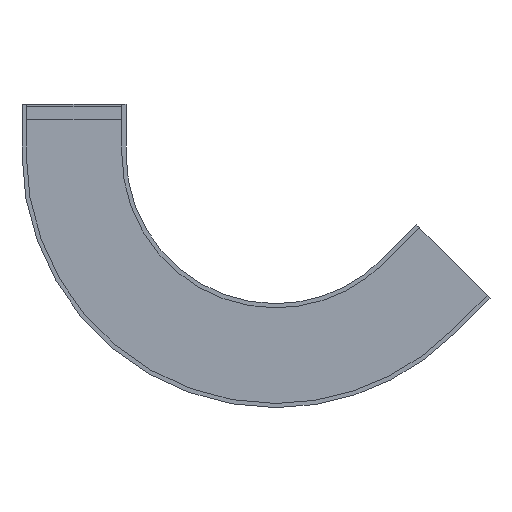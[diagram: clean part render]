
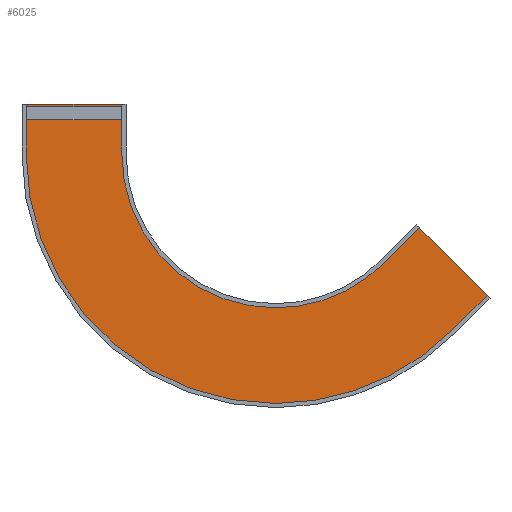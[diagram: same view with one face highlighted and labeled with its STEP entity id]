
A CAD part, front view. The second image highlights one B-rep face of the part: STEP entity #6025.
In plain terms, the highlighted planar face has unit normal (0, -1, 0).
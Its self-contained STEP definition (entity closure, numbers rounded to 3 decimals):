
#59 = VERTEX_POINT ( 'NONE', #1007 ) ;
#113 = VERTEX_POINT ( 'NONE', #931 ) ;
#165 = VERTEX_POINT ( 'NONE', #7362 ) ;
#169 = VERTEX_POINT ( 'NONE', #7344 ) ;
#190 = VERTEX_POINT ( 'NONE', #7257 ) ;
#332 = VERTEX_POINT ( 'NONE', #7296 ) ;
#378 = VERTEX_POINT ( 'NONE', #6730 ) ;
#385 = VERTEX_POINT ( 'NONE', #6700 ) ;
#741 = VECTOR ( 'NONE', #2535, 1000. ) ;
#742 = LINE ( 'NONE', #2536, #741 ) ;
#743 = VECTOR ( 'NONE', #2537, 1000. ) ;
#744 = LINE ( 'NONE', #2538, #743 ) ;
#745 = VECTOR ( 'NONE', #2539, 1000. ) ;
#746 = LINE ( 'NONE', #2540, #745 ) ;
#747 = VECTOR ( 'NONE', #2541, 1000. ) ;
#748 = LINE ( 'NONE', #2542, #747 ) ;
#931 = CARTESIAN_POINT ( 'NONE',  ( 810., -57.525, -803.5 ) ) ;
#965 = VERTEX_POINT ( 'NONE', #6532 ) ;
#1007 = CARTESIAN_POINT ( 'NONE',  ( 1528.774, -57.525, -918.774 ) ) ;
#1036 = VERTEX_POINT ( 'NONE', #6721 ) ;
#1267 = EDGE_CURVE ( 'NONE', #332, #59, #2138, .T. ) ;
#1271 = EDGE_CURVE ( 'NONE', #190, #113, #2132, .T. ) ;
#1351 = EDGE_CURVE ( 'NONE', #385, #165, #1995, .T. ) ;
#1356 = EDGE_CURVE ( 'NONE', #59, #378, #1985, .T. ) ;
#1483 = CIRCLE ( 'NONE', #7118, 1016.5 ) ;
#1487 = CIRCLE ( 'NONE', #7120, 603.5 ) ;
#1616 = FACE_OUTER_BOUND ( 'NONE', #4899, .T. ) ;
#1984 = VECTOR ( 'NONE', #4548, 1000. ) ;
#1985 = LINE ( 'NONE', #4549, #1984 ) ;
#1994 = VECTOR ( 'NONE', #4583, 1000. ) ;
#1995 = LINE ( 'NONE', #4587, #1994 ) ;
#2132 = CIRCLE ( 'NONE', #7588, 603.5 ) ;
#2138 = CIRCLE ( 'NONE', #7590, 1016.5 ) ;
#2535 = DIRECTION ( 'NONE',  ( -0.707, 0., 0.707 ) ) ;
#2536 = CARTESIAN_POINT ( 'NONE',  ( 1378.16, -57.525, -485.318 ) ) ;
#2537 = DIRECTION ( 'NONE',  ( 0., 0., 1. ) ) ;
#2538 = CARTESIAN_POINT ( 'NONE',  ( -206.5, -57.525, -200. ) ) ;
#2539 = DIRECTION ( 'NONE',  ( 1., 0., 0. ) ) ;
#2540 = CARTESIAN_POINT ( 'NONE',  ( 206.5, -57.525, 0. ) ) ;
#2541 = DIRECTION ( 'NONE',  ( 0., 0., 1. ) ) ;
#2542 = CARTESIAN_POINT ( 'NONE',  ( 206.5, -57.525, -200. ) ) ;
#3179 = CARTESIAN_POINT ( 'NONE',  ( 810., -57.525, -200. ) ) ;
#3201 = DIRECTION ( 'NONE',  ( 0., 0., -1. ) ) ;
#3203 = DIRECTION ( 'NONE',  ( 0., -1., 0. ) ) ;
#3692 = DIRECTION ( 'NONE',  ( 0., 0., -1. ) ) ;
#3693 = DIRECTION ( 'NONE',  ( 0., -1., 0. ) ) ;
#3695 = CARTESIAN_POINT ( 'NONE',  ( 810., -57.525, -200. ) ) ;
#4015 = DIRECTION ( 'NONE',  ( 1., 0., 0. ) ) ;
#4016 = DIRECTION ( 'NONE',  ( 0., -1., 0. ) ) ;
#4017 = CARTESIAN_POINT ( 'NONE',  ( 206.5, -57.525, -200. ) ) ;
#4019 = PLANE ( 'NONE',  #7155 ) ;
#4548 = DIRECTION ( 'NONE',  ( 0.707, 0., 0.707 ) ) ;
#4549 = CARTESIAN_POINT ( 'NONE',  ( 1528.774, -57.525, -918.774 ) ) ;
#4583 = DIRECTION ( 'NONE',  ( 0.707, 0., 0.707 ) ) ;
#4587 = CARTESIAN_POINT ( 'NONE',  ( 1236.739, -57.525, -626.739 ) ) ;
#4899 = EDGE_LOOP ( 'NONE', ( #5478, #5479, #5481, #5482, #5483, #5485, #5486, #5487, #5489, #5490 ) ) ;
#5478 = ORIENTED_EDGE ( 'NONE', *, *, #6945, .F. ) ;
#5479 = ORIENTED_EDGE ( 'NONE', *, *, #6946, .F. ) ;
#5481 = ORIENTED_EDGE ( 'NONE', *, *, #6811, .T. ) ;
#5482 = ORIENTED_EDGE ( 'NONE', *, *, #1267, .T. ) ;
#5483 = ORIENTED_EDGE ( 'NONE', *, *, #1356, .T. ) ;
#5485 = ORIENTED_EDGE ( 'NONE', *, *, #6947, .T. ) ;
#5486 = ORIENTED_EDGE ( 'NONE', *, *, #1351, .F. ) ;
#5487 = ORIENTED_EDGE ( 'NONE', *, *, #6809, .F. ) ;
#5489 = ORIENTED_EDGE ( 'NONE', *, *, #1271, .F. ) ;
#5490 = ORIENTED_EDGE ( 'NONE', *, *, #6944, .T. ) ;
#6025 = ADVANCED_FACE ( 'NONE', ( #1616 ), #4019, .T. ) ;
#6186 = DIRECTION ( 'NONE',  ( 0., 0., -1. ) ) ;
#6187 = DIRECTION ( 'NONE',  ( 0., -1., 0. ) ) ;
#6188 = CARTESIAN_POINT ( 'NONE',  ( 810., -57.525, -200. ) ) ;
#6197 = DIRECTION ( 'NONE',  ( 0., 0., -1. ) ) ;
#6199 = DIRECTION ( 'NONE',  ( 0., -1., 0. ) ) ;
#6200 = CARTESIAN_POINT ( 'NONE',  ( 810., -57.525, -200. ) ) ;
#6532 = CARTESIAN_POINT ( 'NONE',  ( -206.5, -57.525, 0. ) ) ;
#6700 = CARTESIAN_POINT ( 'NONE',  ( 1236.739, -57.525, -626.739 ) ) ;
#6721 = CARTESIAN_POINT ( 'NONE',  ( 206.5, -57.525, 0. ) ) ;
#6730 = CARTESIAN_POINT ( 'NONE',  ( 1670.195, -57.525, -777.353 ) ) ;
#6809 = EDGE_CURVE ( 'NONE', #113, #385, #1487, .T. ) ;
#6811 = EDGE_CURVE ( 'NONE', #169, #332, #1483, .T. ) ;
#6944 = EDGE_CURVE ( 'NONE', #190, #1036, #748, .T. ) ;
#6945 = EDGE_CURVE ( 'NONE', #965, #1036, #746, .T. ) ;
#6946 = EDGE_CURVE ( 'NONE', #169, #965, #744, .T. ) ;
#6947 = EDGE_CURVE ( 'NONE', #378, #165, #742, .T. ) ;
#7118 = AXIS2_PLACEMENT_3D ( 'NONE', #3179, #3203, #3201 ) ;
#7120 = AXIS2_PLACEMENT_3D ( 'NONE', #3695, #3693, #3692 ) ;
#7155 = AXIS2_PLACEMENT_3D ( 'NONE', #4017, #4016, #4015 ) ;
#7257 = CARTESIAN_POINT ( 'NONE',  ( 206.5, -57.525, -200. ) ) ;
#7296 = CARTESIAN_POINT ( 'NONE',  ( 810., -57.525, -1216.5 ) ) ;
#7344 = CARTESIAN_POINT ( 'NONE',  ( -206.5, -57.525, -200. ) ) ;
#7362 = CARTESIAN_POINT ( 'NONE',  ( 1378.16, -57.525, -485.318 ) ) ;
#7588 = AXIS2_PLACEMENT_3D ( 'NONE', #6188, #6187, #6186 ) ;
#7590 = AXIS2_PLACEMENT_3D ( 'NONE', #6200, #6199, #6197 ) ;
